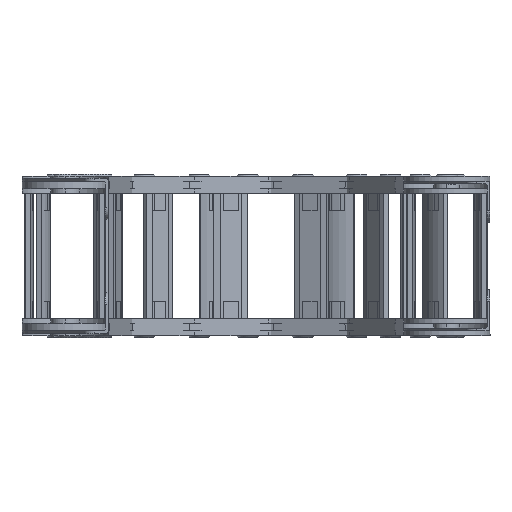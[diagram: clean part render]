
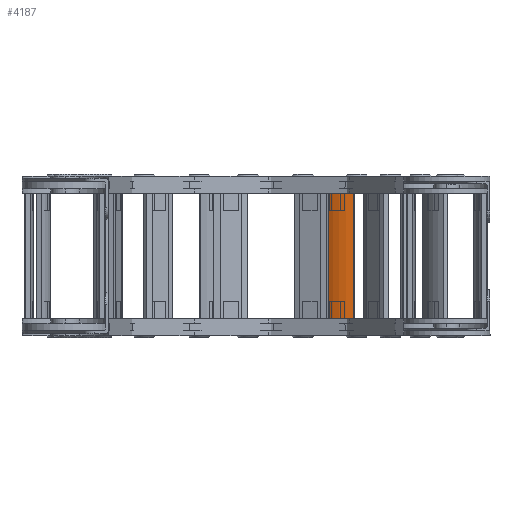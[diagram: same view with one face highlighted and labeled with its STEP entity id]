
A CAD part, left-side view. The second image highlights one B-rep face of the part: STEP entity #4187.
In plain terms, the highlighted cylindrical face has radius 52 mm (diameter 104 mm), a partial arc.
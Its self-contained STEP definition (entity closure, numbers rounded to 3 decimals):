
#4001=CARTESIAN_POINT('',(38.75,85.,0.));
#4002=DIRECTION('',(0.,0.,-1.));
#4003=DIRECTION('',(0.346,-0.938,0.));
#4004=AXIS2_PLACEMENT_3D('',#4001,#4002,#4003);
#4044=DIRECTION('',(0.,0.,-1.));
#4045=VECTOR('',#4044,130.5);
#4046=CARTESIAN_POINT('',(56.75,36.215,0.));
#4047=LINE('',#4046,#4045);
#4051=DIRECTION('',(0.,0.,1.));
#4052=VECTOR('',#4051,130.5);
#4053=CARTESIAN_POINT('',(20.75,36.215,-130.5));
#4054=LINE('',#4053,#4052);
#4079=CARTESIAN_POINT('',(38.75,85.,-130.5));
#4080=DIRECTION('',(0.,0.,1.));
#4081=DIRECTION('',(-0.346,-0.938,0.));
#4082=AXIS2_PLACEMENT_3D('',#4079,#4080,#4081);
#4130=CARTESIAN_POINT('',(56.75,36.215,-130.5));
#4132=VERTEX_POINT('',#4130);
#4133=CARTESIAN_POINT('',(20.75,36.215,-130.5));
#4134=VERTEX_POINT('',#4133);
#4141=CARTESIAN_POINT('',(56.75,36.215,0.));
#4142=VERTEX_POINT('',#4141);
#4145=CARTESIAN_POINT('',(20.75,36.215,0.));
#4146=VERTEX_POINT('',#4145);
#4173=CARTESIAN_POINT('',(38.75,85.,-55.5));
#4174=DIRECTION('',(0.,0.,1.));
#4175=DIRECTION('',(1.,0.,0.));
#4176=AXIS2_PLACEMENT_3D('',#4173,#4174,#4175);
#4177=CYLINDRICAL_SURFACE('',#4176,52.);
#4179=ORIENTED_EDGE('',*,*,#4178,.T.);
#4181=ORIENTED_EDGE('',*,*,#4180,.F.);
#4183=ORIENTED_EDGE('',*,*,#4182,.T.);
#4184=ORIENTED_EDGE('',*,*,#4158,.F.);
#4185=EDGE_LOOP('',(#4179,#4181,#4183,#4184));
#4186=FACE_OUTER_BOUND('',#4185,.F.);
#4187=ADVANCED_FACE('',(#4186),#4177,.T.);
#4005=CIRCLE('',#4004,52.);
#4083=CIRCLE('',#4082,52.);
#4158=EDGE_CURVE('',#4142,#4146,#4005,.T.);
#4178=EDGE_CURVE('',#4142,#4132,#4047,.T.);
#4180=EDGE_CURVE('',#4134,#4132,#4083,.T.);
#4182=EDGE_CURVE('',#4134,#4146,#4054,.T.);
